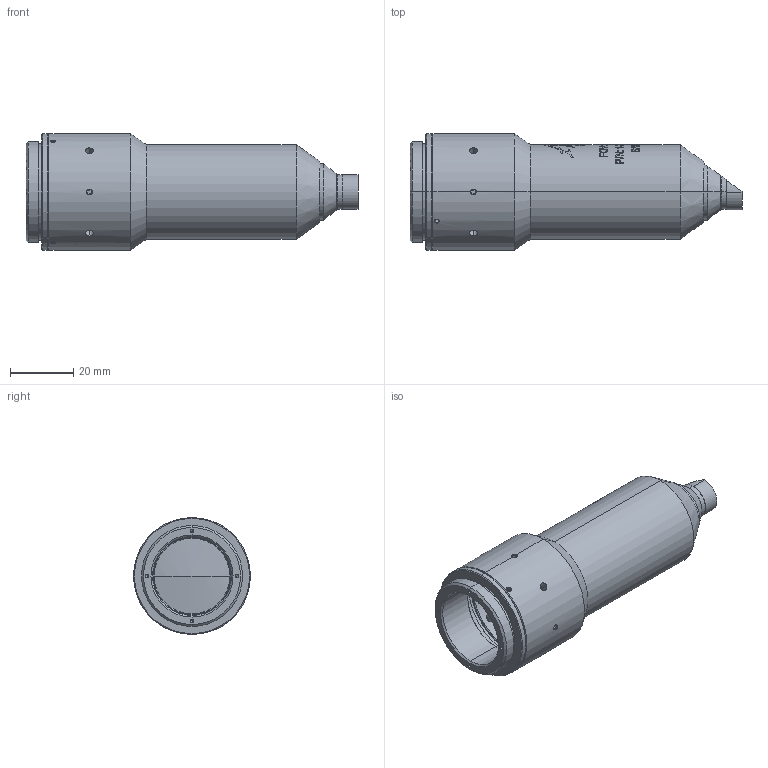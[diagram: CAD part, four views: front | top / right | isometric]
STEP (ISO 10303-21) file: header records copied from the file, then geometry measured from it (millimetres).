
FILE_DESCRIPTION (( 'STEP AP214' ), '1' );
FILE_NAME ('1-295280-02 0.25mm FOV REV B.STEP', '2025-08-25T21:37:34', ( '' ), ( '' ), 'SwSTEP 2.0', 'SolidWorks 2023', '' );
FILE_SCHEMA (( 'AUTOMOTIVE_DESIGN' ));
Length unit declared in the file: millimetre
Products named in the file (1): 1-295280-02 0.25mm FOV REV B
Bounding box: 105.15 x 37 x 37 mm (x, y, z)
Surface area: 23272.6 mm2 (no closed solid volume)
Topology: 0 solids, 14 shells, 815 faces, 2087 edges, 1354 vertices
Faces by surface type: bspline 339, plane 231, cylinder 140, cone 91, torus 8, sphere 6
Entity records: 62754 total; most frequent: CARTESIAN_POINT 36791, ORIENTED_EDGE 4140, DIRECTION 2321, EDGE_CURVE 2073, VERTEX_POINT 1354, B_SPLINE_CURVE_WITH_KNOTS 1129, EDGE_LOOP 912, AXIS2_PLACEMENT_3D 905
